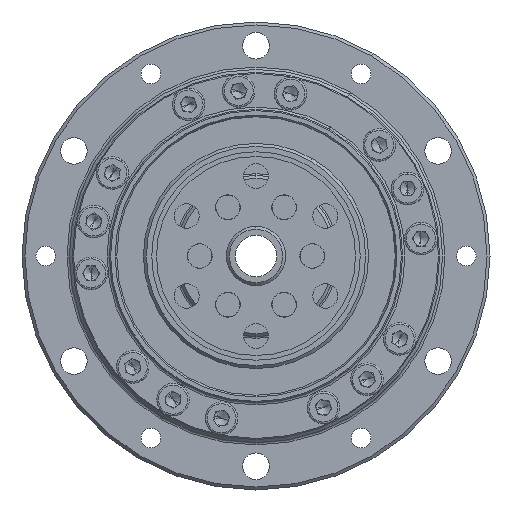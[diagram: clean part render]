
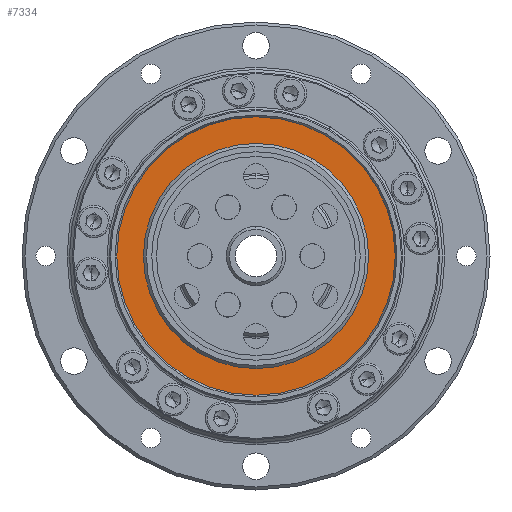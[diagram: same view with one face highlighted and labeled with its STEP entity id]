
A CAD part, left-side view. The second image highlights one B-rep face of the part: STEP entity #7334.
In plain terms, the highlighted planar face has unit normal (-1, 0, 0).
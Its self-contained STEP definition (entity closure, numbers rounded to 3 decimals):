
#590 = CARTESIAN_POINT ( 'NONE',  ( 4.525, 0., 0. ) ) ;
#1480 = PLANE ( 'NONE',  #10610 ) ;
#2314 = CIRCLE ( 'NONE', #4932, 19. ) ;
#2731 = DIRECTION ( 'NONE',  ( 0., 0., 1. ) ) ;
#3593 = EDGE_LOOP ( 'NONE', ( #4904, #10727 ) ) ;
#3760 = CARTESIAN_POINT ( 'NONE',  ( 4.525, 0., 0. ) ) ;
#3838 = EDGE_CURVE ( 'NONE', #18433, #9255, #5579, .T. ) ;
#4904 = ORIENTED_EDGE ( 'NONE', *, *, #3838, .T. ) ;
#4932 = AXIS2_PLACEMENT_3D ( 'NONE', #3760, #18807, #5936 ) ;
#5579 = CIRCLE ( 'NONE', #12981, 23.5 ) ;
#5936 = DIRECTION ( 'NONE',  ( 0., 0., 1. ) ) ;
#6099 = FACE_OUTER_BOUND ( 'NONE', #3593, .T. ) ;
#7221 = ORIENTED_EDGE ( 'NONE', *, *, #21645, .F. ) ;
#7334 = ADVANCED_FACE ( 'NONE', ( #11836, #6099 ), #1480, .F. ) ;
#7468 = VERTEX_POINT ( 'NONE', #21412 ) ;
#7861 = DIRECTION ( 'NONE',  ( -1., 0., 0. ) ) ;
#8000 = DIRECTION ( 'NONE',  ( 1., 0., 0. ) ) ;
#9255 = VERTEX_POINT ( 'NONE', #23379 ) ;
#9734 = CIRCLE ( 'NONE', #18941, 19. ) ;
#10410 = DIRECTION ( 'NONE',  ( -1., 0., 0. ) ) ;
#10610 = AXIS2_PLACEMENT_3D ( 'NONE', #16530, #8000, #23029 ) ;
#10727 = ORIENTED_EDGE ( 'NONE', *, *, #13880, .T. ) ;
#11836 = FACE_BOUND ( 'NONE', #18223, .T. ) ;
#12883 = CARTESIAN_POINT ( 'NONE',  ( 4.525, 0., 23.5 ) ) ;
#12981 = AXIS2_PLACEMENT_3D ( 'NONE', #23273, #10410, #25398 ) ;
#13880 = EDGE_CURVE ( 'NONE', #9255, #18433, #18182, .T. ) ;
#15017 = EDGE_CURVE ( 'NONE', #25856, #7468, #2314, .T. ) ;
#15629 = DIRECTION ( 'NONE',  ( -1., 0., 0. ) ) ;
#16530 = CARTESIAN_POINT ( 'NONE',  ( 4.525, 23.5, 0. ) ) ;
#18182 = CIRCLE ( 'NONE', #26336, 23.5 ) ;
#18223 = EDGE_LOOP ( 'NONE', ( #18270, #7221 ) ) ;
#18270 = ORIENTED_EDGE ( 'NONE', *, *, #15017, .F. ) ;
#18433 = VERTEX_POINT ( 'NONE', #12883 ) ;
#18807 = DIRECTION ( 'NONE',  ( -1., 0., 0. ) ) ;
#18941 = AXIS2_PLACEMENT_3D ( 'NONE', #590, #15629, #2731 ) ;
#20702 = CARTESIAN_POINT ( 'NONE',  ( 4.525, 0., 0. ) ) ;
#21412 = CARTESIAN_POINT ( 'NONE',  ( 4.525, 0., -19. ) ) ;
#21645 = EDGE_CURVE ( 'NONE', #7468, #25856, #9734, .T. ) ;
#22861 = CARTESIAN_POINT ( 'NONE',  ( 4.525, 0., 19. ) ) ;
#22884 = DIRECTION ( 'NONE',  ( 0., 0., 1. ) ) ;
#23029 = DIRECTION ( 'NONE',  ( 0., 0., -1. ) ) ;
#23273 = CARTESIAN_POINT ( 'NONE',  ( 4.525, 0., 0. ) ) ;
#23379 = CARTESIAN_POINT ( 'NONE',  ( 4.525, 0., -23.5 ) ) ;
#25398 = DIRECTION ( 'NONE',  ( 0., 0., 1. ) ) ;
#25856 = VERTEX_POINT ( 'NONE', #22861 ) ;
#26336 = AXIS2_PLACEMENT_3D ( 'NONE', #20702, #7861, #22884 ) ;
